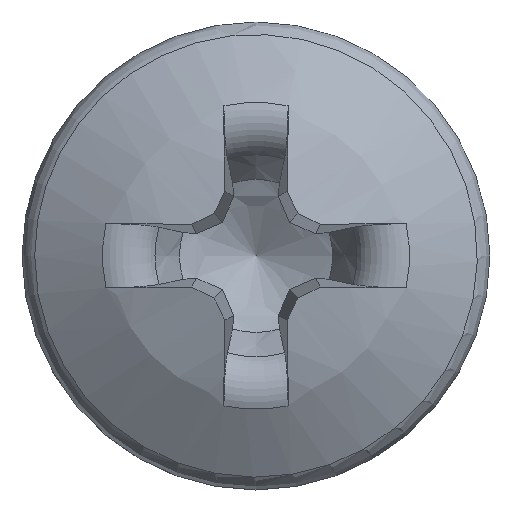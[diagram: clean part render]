
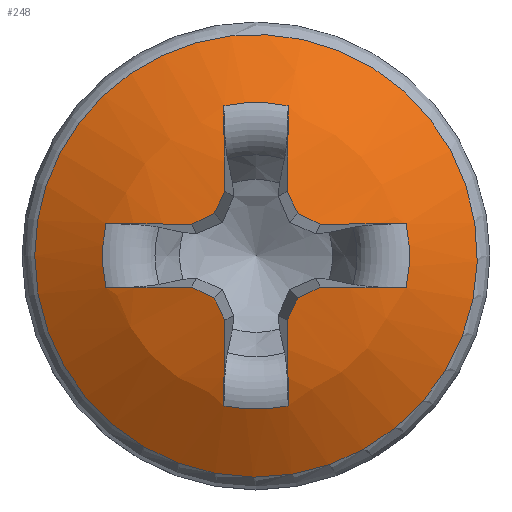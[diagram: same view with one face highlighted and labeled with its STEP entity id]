
A CAD part, top view. The second image highlights one B-rep face of the part: STEP entity #248.
In plain terms, the highlighted spherical face has radius 5.559 mm.
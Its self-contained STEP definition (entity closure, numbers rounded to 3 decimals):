
#219=SPHERICAL_SURFACE('',#1405,5.56);
#230=FACE_BOUND('',#419,.T.);
#231=FACE_BOUND('',#420,.T.);
#248=ADVANCED_FACE('',(#230,#231),#219,.T.);
#419=EDGE_LOOP('',(#563));
#420=EDGE_LOOP('',(#564,#565,#566,#567,#568,#569,#570,#571,#572,#573,#574,
#575,#576,#577,#578,#579,#580,#581,#582,#583));
#513=CIRCLE('',#1384,3.311);
#514=CIRCLE('',#1385,5.559);
#515=CIRCLE('',#1386,2.296);
#516=CIRCLE('',#1387,5.559);
#517=CIRCLE('',#1388,5.552);
#518=CIRCLE('',#1389,5.552);
#519=CIRCLE('',#1390,5.559);
#520=CIRCLE('',#1391,2.296);
#521=CIRCLE('',#1392,5.559);
#522=CIRCLE('',#1393,5.552);
#523=CIRCLE('',#1394,5.552);
#524=CIRCLE('',#1395,5.559);
#525=CIRCLE('',#1396,2.296);
#526=CIRCLE('',#1397,5.559);
#527=CIRCLE('',#1398,5.552);
#528=CIRCLE('',#1399,5.552);
#529=CIRCLE('',#1400,5.559);
#530=CIRCLE('',#1401,2.296);
#531=CIRCLE('',#1402,5.559);
#532=CIRCLE('',#1403,5.552);
#533=CIRCLE('',#1404,5.552);
#563=ORIENTED_EDGE('',*,*,#1087,.T.);
#564=ORIENTED_EDGE('',*,*,#1088,.F.);
#565=ORIENTED_EDGE('',*,*,#1089,.T.);
#566=ORIENTED_EDGE('',*,*,#1090,.F.);
#567=ORIENTED_EDGE('',*,*,#1091,.F.);
#568=ORIENTED_EDGE('',*,*,#1092,.F.);
#569=ORIENTED_EDGE('',*,*,#1093,.F.);
#570=ORIENTED_EDGE('',*,*,#1094,.T.);
#571=ORIENTED_EDGE('',*,*,#1095,.F.);
#572=ORIENTED_EDGE('',*,*,#1096,.F.);
#573=ORIENTED_EDGE('',*,*,#1097,.F.);
#574=ORIENTED_EDGE('',*,*,#1098,.F.);
#575=ORIENTED_EDGE('',*,*,#1099,.T.);
#576=ORIENTED_EDGE('',*,*,#1100,.F.);
#577=ORIENTED_EDGE('',*,*,#1101,.F.);
#578=ORIENTED_EDGE('',*,*,#1102,.F.);
#579=ORIENTED_EDGE('',*,*,#1103,.F.);
#580=ORIENTED_EDGE('',*,*,#1104,.T.);
#581=ORIENTED_EDGE('',*,*,#1105,.F.);
#582=ORIENTED_EDGE('',*,*,#1106,.F.);
#583=ORIENTED_EDGE('',*,*,#1107,.F.);
#961=VERTEX_POINT('',#1944);
#962=VERTEX_POINT('',#1946);
#963=VERTEX_POINT('',#1947);
#964=VERTEX_POINT('',#1949);
#965=VERTEX_POINT('',#1951);
#966=VERTEX_POINT('',#1953);
#967=VERTEX_POINT('',#1955);
#968=VERTEX_POINT('',#1957);
#969=VERTEX_POINT('',#1959);
#970=VERTEX_POINT('',#1961);
#971=VERTEX_POINT('',#1963);
#972=VERTEX_POINT('',#1965);
#973=VERTEX_POINT('',#1967);
#974=VERTEX_POINT('',#1969);
#975=VERTEX_POINT('',#1971);
#976=VERTEX_POINT('',#1973);
#977=VERTEX_POINT('',#1975);
#978=VERTEX_POINT('',#1977);
#979=VERTEX_POINT('',#1979);
#980=VERTEX_POINT('',#1981);
#981=VERTEX_POINT('',#1983);
#1087=EDGE_CURVE('',#961,#961,#513,.T.);
#1088=EDGE_CURVE('',#962,#963,#514,.T.);
#1089=EDGE_CURVE('',#962,#964,#515,.T.);
#1090=EDGE_CURVE('',#965,#964,#516,.T.);
#1091=EDGE_CURVE('',#966,#965,#517,.T.);
#1092=EDGE_CURVE('',#967,#966,#518,.T.);
#1093=EDGE_CURVE('',#968,#967,#519,.T.);
#1094=EDGE_CURVE('',#968,#969,#520,.T.);
#1095=EDGE_CURVE('',#970,#969,#521,.T.);
#1096=EDGE_CURVE('',#971,#970,#522,.T.);
#1097=EDGE_CURVE('',#972,#971,#523,.T.);
#1098=EDGE_CURVE('',#973,#972,#524,.T.);
#1099=EDGE_CURVE('',#973,#974,#525,.T.);
#1100=EDGE_CURVE('',#975,#974,#526,.T.);
#1101=EDGE_CURVE('',#976,#975,#527,.T.);
#1102=EDGE_CURVE('',#977,#976,#528,.T.);
#1103=EDGE_CURVE('',#978,#977,#529,.T.);
#1104=EDGE_CURVE('',#978,#979,#530,.T.);
#1105=EDGE_CURVE('',#980,#979,#531,.T.);
#1106=EDGE_CURVE('',#981,#980,#532,.T.);
#1107=EDGE_CURVE('',#963,#981,#533,.T.);
#1384=AXIS2_PLACEMENT_3D('',#1943,#1467,#1468);
#1385=AXIS2_PLACEMENT_3D('',#1945,#1469,#1470);
#1386=AXIS2_PLACEMENT_3D('',#1948,#1471,#1472);
#1387=AXIS2_PLACEMENT_3D('',#1950,#1473,#1474);
#1388=AXIS2_PLACEMENT_3D('',#1952,#1475,#1476);
#1389=AXIS2_PLACEMENT_3D('',#1954,#1477,#1478);
#1390=AXIS2_PLACEMENT_3D('',#1956,#1479,#1480);
#1391=AXIS2_PLACEMENT_3D('',#1958,#1481,#1482);
#1392=AXIS2_PLACEMENT_3D('',#1960,#1483,#1484);
#1393=AXIS2_PLACEMENT_3D('',#1962,#1485,#1486);
#1394=AXIS2_PLACEMENT_3D('',#1964,#1487,#1488);
#1395=AXIS2_PLACEMENT_3D('',#1966,#1489,#1490);
#1396=AXIS2_PLACEMENT_3D('',#1968,#1491,#1492);
#1397=AXIS2_PLACEMENT_3D('',#1970,#1493,#1494);
#1398=AXIS2_PLACEMENT_3D('',#1972,#1495,#1496);
#1399=AXIS2_PLACEMENT_3D('',#1974,#1497,#1498);
#1400=AXIS2_PLACEMENT_3D('',#1976,#1499,#1500);
#1401=AXIS2_PLACEMENT_3D('',#1978,#1501,#1502);
#1402=AXIS2_PLACEMENT_3D('',#1980,#1503,#1504);
#1403=AXIS2_PLACEMENT_3D('',#1982,#1505,#1506);
#1404=AXIS2_PLACEMENT_3D('',#1984,#1507,#1508);
#1405=AXIS2_PLACEMENT_3D('',#1985,#1509,#1510);
#1467=DIRECTION('',(0.,0.,1.));
#1468=DIRECTION('',(-1.,0.,0.));
#1469=DIRECTION('',(-0.996,-0.035,0.087));
#1470=DIRECTION('',(0.087,0.,0.996));
#1471=DIRECTION('',(0.,0.,-1.));
#1472=DIRECTION('',(-1.,0.,0.));
#1473=DIRECTION('',(0.996,-0.035,0.087));
#1474=DIRECTION('',(0.087,0.,-0.996));
#1475=DIRECTION('',(0.902,0.42,0.1));
#1476=DIRECTION('',(-0.423,0.906,0.));
#1477=DIRECTION('',(0.42,0.902,0.1));
#1478=DIRECTION('',(-0.906,0.423,0.));
#1479=DIRECTION('',(-0.035,0.996,0.087));
#1480=DIRECTION('',(0.,-0.087,0.996));
#1481=DIRECTION('',(0.,0.,-1.));
#1482=DIRECTION('',(-1.,0.,0.));
#1483=DIRECTION('',(-0.035,-0.996,0.087));
#1484=DIRECTION('',(0.,-0.087,-0.996));
#1485=DIRECTION('',(0.42,-0.902,0.1));
#1486=DIRECTION('',(0.906,0.423,0.));
#1487=DIRECTION('',(0.902,-0.42,0.1));
#1488=DIRECTION('',(0.423,0.906,0.));
#1489=DIRECTION('',(0.996,0.035,0.087));
#1490=DIRECTION('',(0.087,0.,-0.996));
#1491=DIRECTION('',(0.,0.,-1.));
#1492=DIRECTION('',(-1.,0.,0.));
#1493=DIRECTION('',(-0.996,0.035,0.087));
#1494=DIRECTION('',(0.087,0.,0.996));
#1495=DIRECTION('',(-0.902,-0.42,0.1));
#1496=DIRECTION('',(0.423,-0.906,0.));
#1497=DIRECTION('',(-0.42,-0.902,0.1));
#1498=DIRECTION('',(0.906,-0.423,0.));
#1499=DIRECTION('',(0.035,-0.996,0.087));
#1500=DIRECTION('',(0.,-0.087,-0.996));
#1501=DIRECTION('',(0.,0.,-1.));
#1502=DIRECTION('',(-1.,0.,0.));
#1503=DIRECTION('',(0.035,0.996,0.087));
#1504=DIRECTION('',(0.,-0.087,0.996));
#1505=DIRECTION('',(-0.42,0.902,0.1));
#1506=DIRECTION('',(-0.906,-0.423,0.));
#1507=DIRECTION('',(-0.902,0.42,0.1));
#1508=DIRECTION('',(-0.423,-0.906,0.));
#1509=DIRECTION('',(0.,0.,1.));
#1510=DIRECTION('',(0.,1.,0.));
#1943=CARTESIAN_POINT('',(0.,0.,2.006));
#1944=CARTESIAN_POINT('',(-3.311,0.,2.006));
#1945=CARTESIAN_POINT('',(-0.042,-0.001,-2.456));
#1946=CARTESIAN_POINT('',(0.479,-2.246,2.604));
#1947=CARTESIAN_POINT('',(0.469,-0.964,2.996));
#1948=CARTESIAN_POINT('',(0.,0.,2.604));
#1949=CARTESIAN_POINT('',(-0.479,-2.246,2.604));
#1950=CARTESIAN_POINT('',(0.042,-0.001,-2.456));
#1951=CARTESIAN_POINT('',(-0.469,-0.964,2.996));
#1952=CARTESIAN_POINT('',(-0.254,-0.118,-2.488));
#1953=CARTESIAN_POINT('',(-0.629,-0.629,3.028));
#1954=CARTESIAN_POINT('',(-0.118,-0.254,-2.488));
#1955=CARTESIAN_POINT('',(-0.964,-0.469,2.996));
#1956=CARTESIAN_POINT('',(-0.001,0.042,-2.456));
#1957=CARTESIAN_POINT('',(-2.246,-0.479,2.604));
#1958=CARTESIAN_POINT('',(0.,0.,2.604));
#1959=CARTESIAN_POINT('',(-2.246,0.479,2.604));
#1960=CARTESIAN_POINT('',(-0.001,-0.042,-2.456));
#1961=CARTESIAN_POINT('',(-0.964,0.469,2.996));
#1962=CARTESIAN_POINT('',(-0.118,0.254,-2.488));
#1963=CARTESIAN_POINT('',(-0.629,0.629,3.028));
#1964=CARTESIAN_POINT('',(-0.254,0.118,-2.488));
#1965=CARTESIAN_POINT('',(-0.469,0.964,2.996));
#1966=CARTESIAN_POINT('',(0.042,0.001,-2.456));
#1967=CARTESIAN_POINT('',(-0.479,2.246,2.604));
#1968=CARTESIAN_POINT('',(0.,0.,2.604));
#1969=CARTESIAN_POINT('',(0.479,2.246,2.604));
#1970=CARTESIAN_POINT('',(-0.042,0.001,-2.456));
#1971=CARTESIAN_POINT('',(0.469,0.964,2.996));
#1972=CARTESIAN_POINT('',(0.254,0.118,-2.488));
#1973=CARTESIAN_POINT('',(0.629,0.629,3.028));
#1974=CARTESIAN_POINT('',(0.118,0.254,-2.488));
#1975=CARTESIAN_POINT('',(0.964,0.469,2.996));
#1976=CARTESIAN_POINT('',(0.001,-0.042,-2.456));
#1977=CARTESIAN_POINT('',(2.246,0.479,2.604));
#1978=CARTESIAN_POINT('',(0.,0.,2.604));
#1979=CARTESIAN_POINT('',(2.246,-0.479,2.604));
#1980=CARTESIAN_POINT('',(0.001,0.042,-2.456));
#1981=CARTESIAN_POINT('',(0.964,-0.469,2.996));
#1982=CARTESIAN_POINT('',(0.118,-0.254,-2.488));
#1983=CARTESIAN_POINT('',(0.629,-0.629,3.028));
#1984=CARTESIAN_POINT('',(0.254,-0.118,-2.488));
#1985=CARTESIAN_POINT('',(0.,0.,-2.46));
